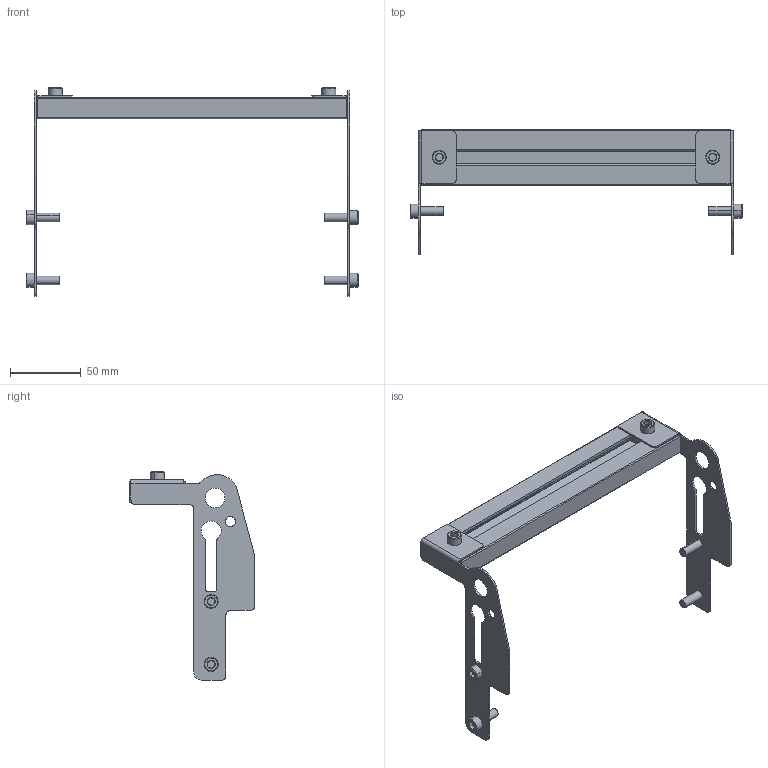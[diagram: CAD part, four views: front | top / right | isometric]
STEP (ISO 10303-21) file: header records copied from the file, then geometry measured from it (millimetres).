
FILE_DESCRIPTION((''),'2;1');
FILE_NAME('207213-08_ASM','2016-06-23T',('adam.dellomodarme'),(''),'PRO/ENGINEER BY PARAMETRIC TECHNOLOGY CORPORATION, 2012420','PRO/ENGINEER BY PARAMETRIC TECHNOLOGY CORPORATION, 2012420','');
FILE_SCHEMA(('CONFIG_CONTROL_DESIGN'));
Length unit declared in the file: inch
Products named in the file (8): 9206XXM_920618M; 9206XXM_920612M; 207216-WW_207216-08; 207130-LH; 207130-RH; 834-019; ASM0001_ASM; 207213-08_ASM
Assembly tree (12 placements, depth 3):
  207213-08_ASM
    ASM0001_ASM
      9206XXM_920618M  x4
      9206XXM_920612M  x2
      207216-WW_207216-08
      207130-LH
      207130-RH
      834-019  x2
Bounding box: 234.81 x 88.64 x 147.81 mm (x, y, z)
Volume: 82670 mm3; surface area: 82782 mm2
Topology: 11 solids, 11 shells, 344 faces, 843 edges, 533 vertices
Faces by surface type: plane 146, cylinder 132, cone 66
Entity records: 7863 total; most frequent: CARTESIAN_POINT 1462, DIRECTION 1396, ORIENTED_EDGE 1258, EDGE_CURVE 629, AXIS2_PLACEMENT_3D 524, VERTEX_POINT 409, VECTOR 348, LINE 348
